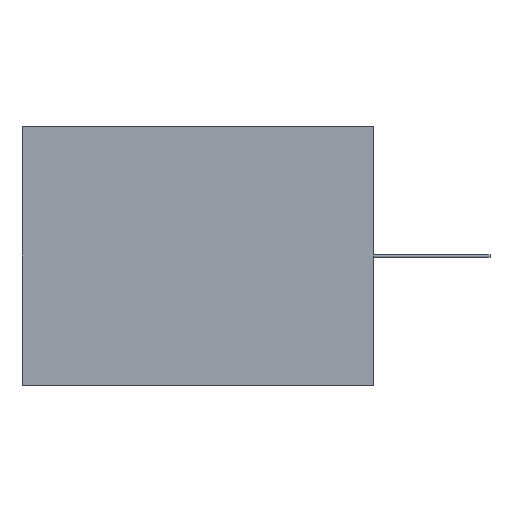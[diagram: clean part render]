
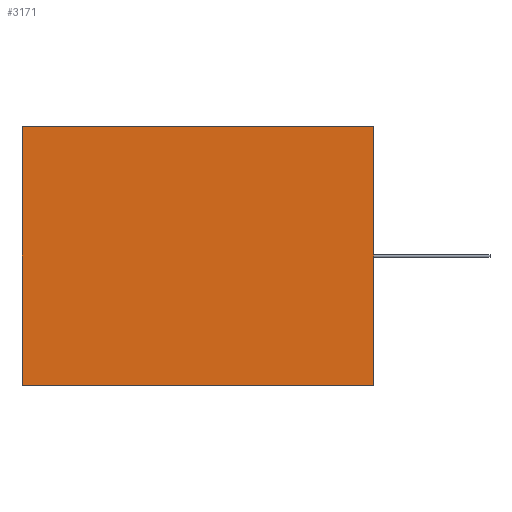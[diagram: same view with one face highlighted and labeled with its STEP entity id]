
A CAD part, front view. The second image highlights one B-rep face of the part: STEP entity #3171.
In plain terms, the highlighted planar face has unit normal (0, -1, 0).
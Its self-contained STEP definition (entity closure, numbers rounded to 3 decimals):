
#657=DIRECTION('',(0.707,0.,-0.707));
#658=VECTOR('',#657,0.707);
#659=CARTESIAN_POINT('',(-285.,-28.,-209.5));
#660=LINE('',#659,#658);
#661=DIRECTION('',(0.,0.,-1.));
#662=VECTOR('',#661,419.);
#663=CARTESIAN_POINT('',(-285.,-28.,209.5));
#664=LINE('',#663,#662);
#665=DIRECTION('',(-0.707,0.,-0.707));
#666=VECTOR('',#665,0.707);
#667=CARTESIAN_POINT('',(-284.5,-28.,210.));
#668=LINE('',#667,#666);
#669=DIRECTION('',(-1.,0.,0.));
#670=VECTOR('',#669,569.);
#671=CARTESIAN_POINT('',(284.5,-28.,210.));
#672=LINE('',#671,#670);
#673=DIRECTION('',(-0.707,0.,0.707));
#674=VECTOR('',#673,0.707);
#675=CARTESIAN_POINT('',(285.,-28.,209.5));
#676=LINE('',#675,#674);
#677=DIRECTION('',(0.,0.,1.));
#678=VECTOR('',#677,419.);
#679=CARTESIAN_POINT('',(285.,-28.,-209.5));
#680=LINE('',#679,#678);
#681=DIRECTION('',(0.707,0.,0.707));
#682=VECTOR('',#681,0.707);
#683=CARTESIAN_POINT('',(284.5,-28.,-210.));
#684=LINE('',#683,#682);
#685=DIRECTION('',(1.,0.,0.));
#686=VECTOR('',#685,569.);
#687=CARTESIAN_POINT('',(-284.5,-28.,-210.));
#688=LINE('',#687,#686);
#2261=CARTESIAN_POINT('',(-285.,-28.,-209.5));
#2262=VERTEX_POINT('',#2261);
#2263=CARTESIAN_POINT('',(-284.5,-28.,-210.));
#2264=VERTEX_POINT('',#2263);
#2269=CARTESIAN_POINT('',(284.5,-28.,-210.));
#2270=VERTEX_POINT('',#2269);
#2271=CARTESIAN_POINT('',(285.,-28.,-209.5));
#2272=VERTEX_POINT('',#2271);
#2277=CARTESIAN_POINT('',(-284.5,-28.,210.));
#2278=VERTEX_POINT('',#2277);
#2279=CARTESIAN_POINT('',(-285.,-28.,209.5));
#2280=VERTEX_POINT('',#2279);
#2285=CARTESIAN_POINT('',(285.,-28.,209.5));
#2286=VERTEX_POINT('',#2285);
#2287=CARTESIAN_POINT('',(284.5,-28.,210.));
#2288=VERTEX_POINT('',#2287);
#3156=CARTESIAN_POINT('',(0.,-28.,0.));
#3157=DIRECTION('',(0.,-1.,0.));
#3158=DIRECTION('',(1.,0.,0.));
#3159=AXIS2_PLACEMENT_3D('',#3156,#3157,#3158);
#3160=PLANE('',#3159);
#3161=ORIENTED_EDGE('',*,*,#3052,.F.);
#3162=ORIENTED_EDGE('',*,*,#3068,.F.);
#3163=ORIENTED_EDGE('',*,*,#3081,.F.);
#3164=ORIENTED_EDGE('',*,*,#3096,.F.);
#3165=ORIENTED_EDGE('',*,*,#3109,.F.);
#3166=ORIENTED_EDGE('',*,*,#3122,.F.);
#3167=ORIENTED_EDGE('',*,*,#3137,.F.);
#3168=ORIENTED_EDGE('',*,*,#3149,.F.);
#3169=EDGE_LOOP('',(#3161,#3162,#3163,#3164,#3165,#3166,#3167,#3168));
#3170=FACE_OUTER_BOUND('',#3169,.F.);
#3052=EDGE_CURVE('',#2262,#2264,#660,.T.);
#3068=EDGE_CURVE('',#2280,#2262,#664,.T.);
#3081=EDGE_CURVE('',#2278,#2280,#668,.T.);
#3096=EDGE_CURVE('',#2288,#2278,#672,.T.);
#3109=EDGE_CURVE('',#2286,#2288,#676,.T.);
#3122=EDGE_CURVE('',#2272,#2286,#680,.T.);
#3137=EDGE_CURVE('',#2270,#2272,#684,.T.);
#3149=EDGE_CURVE('',#2264,#2270,#688,.T.);
#3171=ADVANCED_FACE('',(#3170),#3160,.T.);
